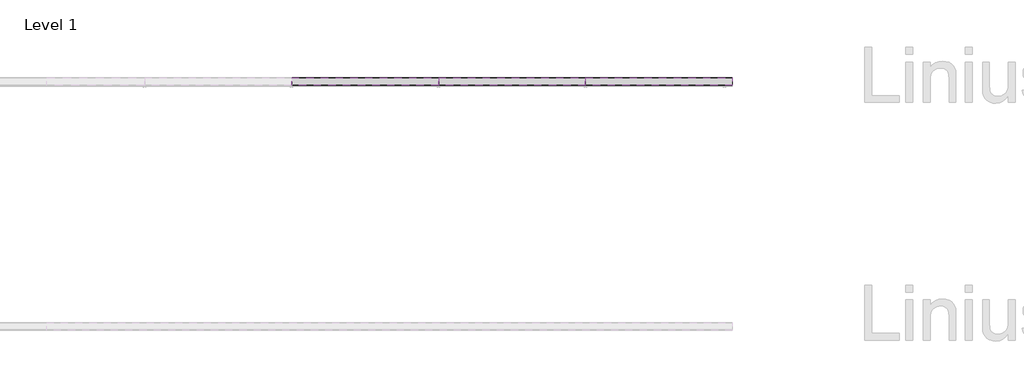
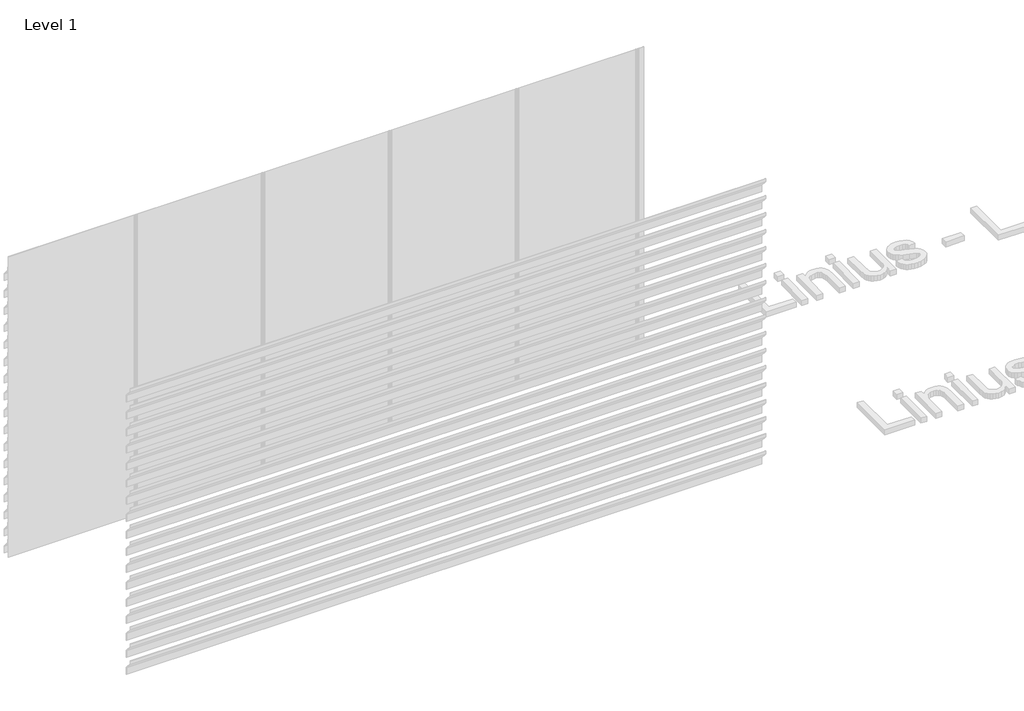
# One storey, part 116 of 121: 51 proxies.
"""IFC4 building model written with IfcOpenShell, lengths in millimetres."""

from ifc_helpers import new_model, si_unit, frame, origin, place, context, project, spatial, polyline, outline, extrude, element, save

model = new_model("IFC4")

# Units and contexts
model_context = context("Model", 3, world=origin())
ifc_project = project(units=[si_unit("LENGTHUNIT", "METRE", prefix="MILLI")], contexts=[model_context])

# Site, building, storey
site = spatial("IfcSite", under=ifc_project)
building = spatial("IfcBuilding", under=site)
storey = spatial("IfcBuildingStorey", under=building, Name="Level 1", Elevation=0.0)

# Proxies
placement = place(None, origin())
element("IfcBuildingElementProxy", 1, Name="Wall Sweeps", at=placement, inside=storey, context=model_context, shape_type="SweptSolid", body=[
    extrude(outline(polyline([(74052.5540136, 2789.0), (74052.5540136, 2720.0), (74050.5540136, 2720.9326153), (74050.5540136, 2788.2698755), (73990.0540136, 2860.0893276), (73990.0540136, 2890.0), (73992.0540136, 2890.0), (73992.0540136, 2860.8194521), (74052.5540136, 2789.0)])), frame((94266.6208095, 0.0, 0.0), z_axis=(1.0, 0.0, 0.0), x_axis=(0.0, 1.0, 0.0)), (0.0, 0.0, 1.0), 1200.0000002),
])
element("IfcBuildingElementProxy", 2, Name="Wall Sweeps", at=placement, inside=storey, context=model_context, shape_type="SweptSolid", body=[
    extrude(outline(polyline([(74052.5540136, 2619.0), (74052.5540136, 2550.0), (74050.5540136, 2550.9326153), (74050.5540136, 2618.2698755), (73990.0540136, 2690.0893276), (73990.0540136, 2720.0), (73992.0540136, 2720.0), (73992.0540136, 2690.8194521), (74052.5540136, 2619.0)])), frame((94266.6208095, 0.0, 0.0), z_axis=(1.0, 0.0, 0.0), x_axis=(0.0, 1.0, 0.0)), (0.0, 0.0, 1.0), 1200.0000002),
])
element("IfcBuildingElementProxy", 3, Name="Wall Sweeps", at=placement, inside=storey, context=model_context, shape_type="SweptSolid", body=[
    extrude(outline(polyline([(74052.5540136, 2449.0), (74052.5540136, 2380.0), (74050.5540136, 2380.9326153), (74050.5540136, 2448.2698755), (73990.0540136, 2520.0893276), (73990.0540136, 2550.0), (73992.0540136, 2550.0), (73992.0540136, 2520.8194521), (74052.5540136, 2449.0)])), frame((94266.6208095, 0.0, 0.0), z_axis=(1.0, 0.0, 0.0), x_axis=(0.0, 1.0, 0.0)), (0.0, 0.0, 1.0), 1200.0000002),
])
element("IfcBuildingElementProxy", 4, Name="Wall Sweeps", at=placement, inside=storey, context=model_context, shape_type="SweptSolid", body=[
    extrude(outline(polyline([(74052.5540136, 2279.0), (74052.5540136, 2210.0), (74050.5540136, 2210.9326153), (74050.5540136, 2278.2698755), (73990.0540136, 2350.0893276), (73990.0540136, 2380.0), (73992.0540136, 2380.0), (73992.0540136, 2350.8194521), (74052.5540136, 2279.0)])), frame((94266.6208095, 0.0, 0.0), z_axis=(1.0, 0.0, 0.0), x_axis=(0.0, 1.0, 0.0)), (0.0, 0.0, 1.0), 1200.0000002),
])
element("IfcBuildingElementProxy", 5, Name="Wall Sweeps", at=placement, inside=storey, context=model_context, shape_type="SweptSolid", body=[
    extrude(outline(polyline([(74052.5540136, 2109.0), (74052.5540136, 2040.0), (74050.5540136, 2040.9326153), (74050.5540136, 2108.2698755), (73990.0540136, 2180.0893276), (73990.0540136, 2210.0), (73992.0540136, 2210.0), (73992.0540136, 2180.8194521), (74052.5540136, 2109.0)])), frame((94266.6208095, 0.0, 0.0), z_axis=(1.0, 0.0, 0.0), x_axis=(0.0, 1.0, 0.0)), (0.0, 0.0, 1.0), 1200.0000002),
])
element("IfcBuildingElementProxy", 6, Name="Wall Sweeps", at=placement, inside=storey, context=model_context, shape_type="SweptSolid", body=[
    extrude(outline(polyline([(74052.5540136, 1939.0), (74052.5540136, 1870.0), (74050.5540136, 1870.9326153), (74050.5540136, 1938.2698755), (73990.0540136, 2010.0893276), (73990.0540136, 2040.0), (73992.0540136, 2040.0), (73992.0540136, 2010.8194521), (74052.5540136, 1939.0)])), frame((94266.6208095, 0.0, 0.0), z_axis=(1.0, 0.0, 0.0), x_axis=(0.0, 1.0, 0.0)), (0.0, 0.0, 1.0), 1200.0000002),
])
element("IfcBuildingElementProxy", 7, Name="Wall Sweeps", at=placement, inside=storey, context=model_context, shape_type="SweptSolid", body=[
    extrude(outline(polyline([(74052.5540136, 1769.0), (74052.5540136, 1700.0), (74050.5540136, 1700.9326153), (74050.5540136, 1768.2698755), (73990.0540136, 1840.0893276), (73990.0540136, 1870.0), (73992.0540136, 1870.0), (73992.0540136, 1840.8194521), (74052.5540136, 1769.0)])), frame((94266.6208095, 0.0, 0.0), z_axis=(1.0, 0.0, 0.0), x_axis=(0.0, 1.0, 0.0)), (0.0, 0.0, 1.0), 1200.0000002),
])
element("IfcBuildingElementProxy", 8, Name="Wall Sweeps", at=placement, inside=storey, context=model_context, shape_type="SweptSolid", body=[
    extrude(outline(polyline([(74052.5540136, 1599.0), (74052.5540136, 1530.0), (74050.5540136, 1530.9326153), (74050.5540136, 1598.2698755), (73990.0540136, 1670.0893276), (73990.0540136, 1700.0), (73992.0540136, 1700.0), (73992.0540136, 1670.8194521), (74052.5540136, 1599.0)])), frame((94266.6208095, 0.0, 0.0), z_axis=(1.0, 0.0, 0.0), x_axis=(0.0, 1.0, 0.0)), (0.0, 0.0, 1.0), 1200.0000002),
])
element("IfcBuildingElementProxy", 9, Name="Wall Sweeps", at=placement, inside=storey, context=model_context, shape_type="SweptSolid", body=[
    extrude(outline(polyline([(74052.5540136, 1429.0), (74052.5540136, 1360.0), (74050.5540136, 1360.9326153), (74050.5540136, 1428.2698755), (73990.0540136, 1500.0893276), (73990.0540136, 1530.0), (73992.0540136, 1530.0), (73992.0540136, 1500.8194521), (74052.5540136, 1429.0)])), frame((94266.6208095, 0.0, 0.0), z_axis=(1.0, 0.0, 0.0), x_axis=(0.0, 1.0, 0.0)), (0.0, 0.0, 1.0), 1200.0000002),
])
element("IfcBuildingElementProxy", 10, Name="Wall Sweeps", at=placement, inside=storey, context=model_context, shape_type="SweptSolid", body=[
    extrude(outline(polyline([(74052.5540136, 1259.0), (74052.5540136, 1190.0), (74050.5540136, 1190.9326153), (74050.5540136, 1258.2698755), (73990.0540136, 1330.0893276), (73990.0540136, 1360.0), (73992.0540136, 1360.0), (73992.0540136, 1330.8194521), (74052.5540136, 1259.0)])), frame((94266.6208095, 0.0, 0.0), z_axis=(1.0, 0.0, 0.0), x_axis=(0.0, 1.0, 0.0)), (0.0, 0.0, 1.0), 1200.0000002),
])
element("IfcBuildingElementProxy", 11, Name="Wall Sweeps", at=placement, inside=storey, context=model_context, shape_type="SweptSolid", body=[
    extrude(outline(polyline([(74052.5540136, 1089.0), (74052.5540136, 1020.0), (74050.5540136, 1020.9326153), (74050.5540136, 1088.2698755), (73990.0540136, 1160.0893276), (73990.0540136, 1190.0), (73992.0540136, 1190.0), (73992.0540136, 1160.8194521), (74052.5540136, 1089.0)])), frame((94266.6208095, 0.0, 0.0), z_axis=(1.0, 0.0, 0.0), x_axis=(0.0, 1.0, 0.0)), (0.0, 0.0, 1.0), 1200.0000002),
])
element("IfcBuildingElementProxy", 12, Name="Wall Sweeps", at=placement, inside=storey, context=model_context, shape_type="SweptSolid", body=[
    extrude(outline(polyline([(74052.5540136, 919.0), (74052.5540136, 850.0), (74050.5540136, 850.9326153), (74050.5540136, 918.2698755), (73990.0540136, 990.0893276), (73990.0540136, 1020.0), (73992.0540136, 1020.0), (73992.0540136, 990.8194521), (74052.5540136, 919.0)])), frame((94266.6208095, 0.0, 0.0), z_axis=(1.0, 0.0, 0.0), x_axis=(0.0, 1.0, 0.0)), (0.0, 0.0, 1.0), 1200.0000002),
])
element("IfcBuildingElementProxy", 13, Name="Wall Sweeps", at=placement, inside=storey, context=model_context, shape_type="SweptSolid", body=[
    extrude(outline(polyline([(74052.5540136, 749.0), (74052.5540136, 680.0), (74050.5540136, 680.9326153), (74050.5540136, 748.2698755), (73990.0540136, 820.0893276), (73990.0540136, 850.0), (73992.0540136, 850.0), (73992.0540136, 820.8194521), (74052.5540136, 749.0)])), frame((94266.6208095, 0.0, 0.0), z_axis=(1.0, 0.0, 0.0), x_axis=(0.0, 1.0, 0.0)), (0.0, 0.0, 1.0), 1200.0000002),
])
element("IfcBuildingElementProxy", 14, Name="Wall Sweeps", at=placement, inside=storey, context=model_context, shape_type="SweptSolid", body=[
    extrude(outline(polyline([(74052.5540136, 579.0), (74052.5540136, 510.0), (74050.5540136, 510.9326153), (74050.5540136, 578.2698755), (73990.0540136, 650.0893276), (73990.0540136, 680.0), (73992.0540136, 680.0), (73992.0540136, 650.8194521), (74052.5540136, 579.0)])), frame((94266.6208095, 0.0, 0.0), z_axis=(1.0, 0.0, 0.0), x_axis=(0.0, 1.0, 0.0)), (0.0, 0.0, 1.0), 1200.0000002),
])
element("IfcBuildingElementProxy", 15, Name="Wall Sweeps", at=placement, inside=storey, context=model_context, shape_type="SweptSolid", body=[
    extrude(outline(polyline([(74052.5540136, 409.0), (74052.5540136, 340.0), (74050.5540136, 340.9326153), (74050.5540136, 408.2698755), (73990.0540136, 480.0893276), (73990.0540136, 510.0), (73992.0540136, 510.0), (73992.0540136, 480.8194521), (74052.5540136, 409.0)])), frame((94266.6208095, 0.0, 0.0), z_axis=(1.0, 0.0, 0.0), x_axis=(0.0, 1.0, 0.0)), (0.0, 0.0, 1.0), 1200.0000002),
])
element("IfcBuildingElementProxy", 16, Name="Wall Sweeps", at=placement, inside=storey, context=model_context, shape_type="SweptSolid", body=[
    extrude(outline(polyline([(74052.5540136, 239.0), (74052.5540136, 170.0), (74050.5540136, 170.9326153), (74050.5540136, 238.2698755), (73990.0540136, 310.0893276), (73990.0540136, 340.0), (73992.0540136, 340.0), (73992.0540136, 310.8194521), (74052.5540136, 239.0)])), frame((94266.6208095, 0.0, 0.0), z_axis=(1.0, 0.0, 0.0), x_axis=(0.0, 1.0, 0.0)), (0.0, 0.0, 1.0), 1200.0000002),
])
element("IfcBuildingElementProxy", 17, Name="Wall Sweeps", at=placement, inside=storey, context=model_context, shape_type="SweptSolid", body=[
    extrude(outline(polyline([(74052.5540136, 69.0), (74052.5540136, 0.0), (74050.5540136, 0.9326153), (74050.5540136, 68.2698755), (73990.0540136, 140.0893276), (73990.0540136, 170.0), (73992.0540136, 170.0), (73992.0540136, 140.8194521), (74052.5540136, 69.0)])), frame((94266.6208095, 0.0, 0.0), z_axis=(1.0, 0.0, 0.0), x_axis=(0.0, 1.0, 0.0)), (0.0, 0.0, 1.0), 1200.0000002),
])
element("IfcBuildingElementProxy", 18, Name="Wall Sweeps", at=placement, inside=storey, context=model_context, shape_type="SweptSolid", body=[
    extrude(outline(polyline([(74052.5540136, 2789.0), (74052.5540136, 2720.0), (74050.5540136, 2720.9326153), (74050.5540136, 2788.2698755), (73990.0540136, 2860.0893276), (73990.0540136, 2890.0), (73992.0540136, 2890.0), (73992.0540136, 2860.8194521), (74052.5540136, 2789.0)])), frame((91866.6208097, 0.0, 0.0), z_axis=(1.0, 0.0, 0.0), x_axis=(0.0, 1.0, 0.0)), (0.0, 0.0, 1.0), 1199.9999999),
])
element("IfcBuildingElementProxy", 19, Name="Wall Sweeps", at=placement, inside=storey, context=model_context, shape_type="SweptSolid", body=[
    extrude(outline(polyline([(74052.5540136, 2619.0), (74052.5540136, 2550.0), (74050.5540136, 2550.9326153), (74050.5540136, 2618.2698755), (73990.0540136, 2690.0893276), (73990.0540136, 2720.0), (73992.0540136, 2720.0), (73992.0540136, 2690.8194521), (74052.5540136, 2619.0)])), frame((91866.6208097, 0.0, 0.0), z_axis=(1.0, 0.0, 0.0), x_axis=(0.0, 1.0, 0.0)), (0.0, 0.0, 1.0), 1199.9999999),
])
element("IfcBuildingElementProxy", 20, Name="Wall Sweeps", at=placement, inside=storey, context=model_context, shape_type="SweptSolid", body=[
    extrude(outline(polyline([(74052.5540136, 2449.0), (74052.5540136, 2380.0), (74050.5540136, 2380.9326153), (74050.5540136, 2448.2698755), (73990.0540136, 2520.0893276), (73990.0540136, 2550.0), (73992.0540136, 2550.0), (73992.0540136, 2520.8194521), (74052.5540136, 2449.0)])), frame((91866.6208097, 0.0, 0.0), z_axis=(1.0, 0.0, 0.0), x_axis=(0.0, 1.0, 0.0)), (0.0, 0.0, 1.0), 1199.9999999),
])
element("IfcBuildingElementProxy", 21, Name="Wall Sweeps", at=placement, inside=storey, context=model_context, shape_type="SweptSolid", body=[
    extrude(outline(polyline([(74052.5540136, 2279.0), (74052.5540136, 2210.0), (74050.5540136, 2210.9326153), (74050.5540136, 2278.2698755), (73990.0540136, 2350.0893276), (73990.0540136, 2380.0), (73992.0540136, 2380.0), (73992.0540136, 2350.8194521), (74052.5540136, 2279.0)])), frame((91866.6208097, 0.0, 0.0), z_axis=(1.0, 0.0, 0.0), x_axis=(0.0, 1.0, 0.0)), (0.0, 0.0, 1.0), 1199.9999999),
])
element("IfcBuildingElementProxy", 22, Name="Wall Sweeps", at=placement, inside=storey, context=model_context, shape_type="SweptSolid", body=[
    extrude(outline(polyline([(74052.5540136, 2109.0), (74052.5540136, 2040.0), (74050.5540136, 2040.9326153), (74050.5540136, 2108.2698755), (73990.0540136, 2180.0893276), (73990.0540136, 2210.0), (73992.0540136, 2210.0), (73992.0540136, 2180.8194521), (74052.5540136, 2109.0)])), frame((91866.6208097, 0.0, 0.0), z_axis=(1.0, 0.0, 0.0), x_axis=(0.0, 1.0, 0.0)), (0.0, 0.0, 1.0), 1199.9999999),
])
element("IfcBuildingElementProxy", 23, Name="Wall Sweeps", at=placement, inside=storey, context=model_context, shape_type="SweptSolid", body=[
    extrude(outline(polyline([(74052.5540136, 1939.0), (74052.5540136, 1870.0), (74050.5540136, 1870.9326153), (74050.5540136, 1938.2698755), (73990.0540136, 2010.0893276), (73990.0540136, 2040.0), (73992.0540136, 2040.0), (73992.0540136, 2010.8194521), (74052.5540136, 1939.0)])), frame((91866.6208097, 0.0, 0.0), z_axis=(1.0, 0.0, 0.0), x_axis=(0.0, 1.0, 0.0)), (0.0, 0.0, 1.0), 1199.9999999),
])
element("IfcBuildingElementProxy", 24, Name="Wall Sweeps", at=placement, inside=storey, context=model_context, shape_type="SweptSolid", body=[
    extrude(outline(polyline([(74052.5540136, 1769.0), (74052.5540136, 1700.0), (74050.5540136, 1700.9326153), (74050.5540136, 1768.2698755), (73990.0540136, 1840.0893276), (73990.0540136, 1870.0), (73992.0540136, 1870.0), (73992.0540136, 1840.8194521), (74052.5540136, 1769.0)])), frame((91866.6208097, 0.0, 0.0), z_axis=(1.0, 0.0, 0.0), x_axis=(0.0, 1.0, 0.0)), (0.0, 0.0, 1.0), 1199.9999999),
])
element("IfcBuildingElementProxy", 25, Name="Wall Sweeps", at=placement, inside=storey, context=model_context, shape_type="SweptSolid", body=[
    extrude(outline(polyline([(74052.5540136, 1599.0), (74052.5540136, 1530.0), (74050.5540136, 1530.9326153), (74050.5540136, 1598.2698755), (73990.0540136, 1670.0893276), (73990.0540136, 1700.0), (73992.0540136, 1700.0), (73992.0540136, 1670.8194521), (74052.5540136, 1599.0)])), frame((91866.6208097, 0.0, 0.0), z_axis=(1.0, 0.0, 0.0), x_axis=(0.0, 1.0, 0.0)), (0.0, 0.0, 1.0), 1199.9999999),
])
element("IfcBuildingElementProxy", 26, Name="Wall Sweeps", at=placement, inside=storey, context=model_context, shape_type="SweptSolid", body=[
    extrude(outline(polyline([(74052.5540136, 1429.0), (74052.5540136, 1360.0), (74050.5540136, 1360.9326153), (74050.5540136, 1428.2698755), (73990.0540136, 1500.0893276), (73990.0540136, 1530.0), (73992.0540136, 1530.0), (73992.0540136, 1500.8194521), (74052.5540136, 1429.0)])), frame((91866.6208097, 0.0, 0.0), z_axis=(1.0, 0.0, 0.0), x_axis=(0.0, 1.0, 0.0)), (0.0, 0.0, 1.0), 1199.9999999),
])
element("IfcBuildingElementProxy", 27, Name="Wall Sweeps", at=placement, inside=storey, context=model_context, shape_type="SweptSolid", body=[
    extrude(outline(polyline([(74052.5540136, 1259.0), (74052.5540136, 1190.0), (74050.5540136, 1190.9326153), (74050.5540136, 1258.2698755), (73990.0540136, 1330.0893276), (73990.0540136, 1360.0), (73992.0540136, 1360.0), (73992.0540136, 1330.8194521), (74052.5540136, 1259.0)])), frame((91866.6208097, 0.0, 0.0), z_axis=(1.0, 0.0, 0.0), x_axis=(0.0, 1.0, 0.0)), (0.0, 0.0, 1.0), 1199.9999999),
])
element("IfcBuildingElementProxy", 28, Name="Wall Sweeps", at=placement, inside=storey, context=model_context, shape_type="SweptSolid", body=[
    extrude(outline(polyline([(74052.5540136, 1089.0), (74052.5540136, 1020.0), (74050.5540136, 1020.9326153), (74050.5540136, 1088.2698755), (73990.0540136, 1160.0893276), (73990.0540136, 1190.0), (73992.0540136, 1190.0), (73992.0540136, 1160.8194521), (74052.5540136, 1089.0)])), frame((91866.6208097, 0.0, 0.0), z_axis=(1.0, 0.0, 0.0), x_axis=(0.0, 1.0, 0.0)), (0.0, 0.0, 1.0), 1199.9999999),
])
element("IfcBuildingElementProxy", 29, Name="Wall Sweeps", at=placement, inside=storey, context=model_context, shape_type="SweptSolid", body=[
    extrude(outline(polyline([(74052.5540136, 919.0), (74052.5540136, 850.0), (74050.5540136, 850.9326153), (74050.5540136, 918.2698755), (73990.0540136, 990.0893276), (73990.0540136, 1020.0), (73992.0540136, 1020.0), (73992.0540136, 990.8194521), (74052.5540136, 919.0)])), frame((91866.6208097, 0.0, 0.0), z_axis=(1.0, 0.0, 0.0), x_axis=(0.0, 1.0, 0.0)), (0.0, 0.0, 1.0), 1199.9999999),
])
element("IfcBuildingElementProxy", 30, Name="Wall Sweeps", at=placement, inside=storey, context=model_context, shape_type="SweptSolid", body=[
    extrude(outline(polyline([(74052.5540136, 749.0), (74052.5540136, 680.0), (74050.5540136, 680.9326153), (74050.5540136, 748.2698755), (73990.0540136, 820.0893276), (73990.0540136, 850.0), (73992.0540136, 850.0), (73992.0540136, 820.8194521), (74052.5540136, 749.0)])), frame((91866.6208097, 0.0, 0.0), z_axis=(1.0, 0.0, 0.0), x_axis=(0.0, 1.0, 0.0)), (0.0, 0.0, 1.0), 1199.9999999),
])
element("IfcBuildingElementProxy", 31, Name="Wall Sweeps", at=placement, inside=storey, context=model_context, shape_type="SweptSolid", body=[
    extrude(outline(polyline([(74052.5540136, 579.0), (74052.5540136, 510.0), (74050.5540136, 510.9326153), (74050.5540136, 578.2698755), (73990.0540136, 650.0893276), (73990.0540136, 680.0), (73992.0540136, 680.0), (73992.0540136, 650.8194521), (74052.5540136, 579.0)])), frame((91866.6208097, 0.0, 0.0), z_axis=(1.0, 0.0, 0.0), x_axis=(0.0, 1.0, 0.0)), (0.0, 0.0, 1.0), 1199.9999999),
])
element("IfcBuildingElementProxy", 32, Name="Wall Sweeps", at=placement, inside=storey, context=model_context, shape_type="SweptSolid", body=[
    extrude(outline(polyline([(74052.5540136, 409.0), (74052.5540136, 340.0), (74050.5540136, 340.9326153), (74050.5540136, 408.2698755), (73990.0540136, 480.0893276), (73990.0540136, 510.0), (73992.0540136, 510.0), (73992.0540136, 480.8194521), (74052.5540136, 409.0)])), frame((91866.6208097, 0.0, 0.0), z_axis=(1.0, 0.0, 0.0), x_axis=(0.0, 1.0, 0.0)), (0.0, 0.0, 1.0), 1199.9999999),
])
element("IfcBuildingElementProxy", 33, Name="Wall Sweeps", at=placement, inside=storey, context=model_context, shape_type="SweptSolid", body=[
    extrude(outline(polyline([(74052.5540136, 239.0), (74052.5540136, 170.0), (74050.5540136, 170.9326153), (74050.5540136, 238.2698755), (73990.0540136, 310.0893276), (73990.0540136, 340.0), (73992.0540136, 340.0), (73992.0540136, 310.8194521), (74052.5540136, 239.0)])), frame((91866.6208097, 0.0, 0.0), z_axis=(1.0, 0.0, 0.0), x_axis=(0.0, 1.0, 0.0)), (0.0, 0.0, 1.0), 1199.9999999),
])
element("IfcBuildingElementProxy", 34, Name="Wall Sweeps", at=placement, inside=storey, context=model_context, shape_type="SweptSolid", body=[
    extrude(outline(polyline([(74052.5540136, 69.0), (74052.5540136, 0.0), (74050.5540136, 0.9326153), (74050.5540136, 68.2698755), (73990.0540136, 140.0893276), (73990.0540136, 170.0), (73992.0540136, 170.0), (73992.0540136, 140.8194521), (74052.5540136, 69.0)])), frame((91866.6208097, 0.0, 0.0), z_axis=(1.0, 0.0, 0.0), x_axis=(0.0, 1.0, 0.0)), (0.0, 0.0, 1.0), 1199.9999999),
])
element("IfcBuildingElementProxy", 35, Name="Wall Sweeps", at=placement, inside=storey, context=model_context, shape_type="SweptSolid", body=[
    extrude(outline(polyline([(74052.5540136, 2789.0), (74052.5540136, 2720.0), (74050.5540136, 2720.9326153), (74050.5540136, 2788.2698755), (73990.0540136, 2860.0893276), (73990.0540136, 2890.0), (73992.0540136, 2890.0), (73992.0540136, 2860.8194521), (74052.5540136, 2789.0)])), frame((93066.6208096, 0.0, 0.0), z_axis=(1.0, 0.0, 0.0), x_axis=(0.0, 1.0, 0.0)), (0.0, 0.0, 1.0), 1199.9999999),
])
element("IfcBuildingElementProxy", 36, Name="Wall Sweeps", at=placement, inside=storey, context=model_context, shape_type="SweptSolid", body=[
    extrude(outline(polyline([(74052.5540136, 2619.0), (74052.5540136, 2550.0), (74050.5540136, 2550.9326153), (74050.5540136, 2618.2698755), (73990.0540136, 2690.0893276), (73990.0540136, 2720.0), (73992.0540136, 2720.0), (73992.0540136, 2690.8194521), (74052.5540136, 2619.0)])), frame((93066.6208096, 0.0, 0.0), z_axis=(1.0, 0.0, 0.0), x_axis=(0.0, 1.0, 0.0)), (0.0, 0.0, 1.0), 1199.9999999),
])
element("IfcBuildingElementProxy", 37, Name="Wall Sweeps", at=placement, inside=storey, context=model_context, shape_type="SweptSolid", body=[
    extrude(outline(polyline([(74052.5540136, 2449.0), (74052.5540136, 2380.0), (74050.5540136, 2380.9326153), (74050.5540136, 2448.2698755), (73990.0540136, 2520.0893276), (73990.0540136, 2550.0), (73992.0540136, 2550.0), (73992.0540136, 2520.8194521), (74052.5540136, 2449.0)])), frame((93066.6208096, 0.0, 0.0), z_axis=(1.0, 0.0, 0.0), x_axis=(0.0, 1.0, 0.0)), (0.0, 0.0, 1.0), 1199.9999999),
])
element("IfcBuildingElementProxy", 38, Name="Wall Sweeps", at=placement, inside=storey, context=model_context, shape_type="SweptSolid", body=[
    extrude(outline(polyline([(74052.5540136, 2279.0), (74052.5540136, 2210.0), (74050.5540136, 2210.9326153), (74050.5540136, 2278.2698755), (73990.0540136, 2350.0893276), (73990.0540136, 2380.0), (73992.0540136, 2380.0), (73992.0540136, 2350.8194521), (74052.5540136, 2279.0)])), frame((93066.6208096, 0.0, 0.0), z_axis=(1.0, 0.0, 0.0), x_axis=(0.0, 1.0, 0.0)), (0.0, 0.0, 1.0), 1199.9999999),
])
element("IfcBuildingElementProxy", 39, Name="Wall Sweeps", at=placement, inside=storey, context=model_context, shape_type="SweptSolid", body=[
    extrude(outline(polyline([(74052.5540136, 2109.0), (74052.5540136, 2040.0), (74050.5540136, 2040.9326153), (74050.5540136, 2108.2698755), (73990.0540136, 2180.0893276), (73990.0540136, 2210.0), (73992.0540136, 2210.0), (73992.0540136, 2180.8194521), (74052.5540136, 2109.0)])), frame((93066.6208096, 0.0, 0.0), z_axis=(1.0, 0.0, 0.0), x_axis=(0.0, 1.0, 0.0)), (0.0, 0.0, 1.0), 1199.9999999),
])
element("IfcBuildingElementProxy", 40, Name="Wall Sweeps", at=placement, inside=storey, context=model_context, shape_type="SweptSolid", body=[
    extrude(outline(polyline([(74052.5540136, 1939.0), (74052.5540136, 1870.0), (74050.5540136, 1870.9326153), (74050.5540136, 1938.2698755), (73990.0540136, 2010.0893276), (73990.0540136, 2040.0), (73992.0540136, 2040.0), (73992.0540136, 2010.8194521), (74052.5540136, 1939.0)])), frame((93066.6208096, 0.0, 0.0), z_axis=(1.0, 0.0, 0.0), x_axis=(0.0, 1.0, 0.0)), (0.0, 0.0, 1.0), 1199.9999999),
])
element("IfcBuildingElementProxy", 41, Name="Wall Sweeps", at=placement, inside=storey, context=model_context, shape_type="SweptSolid", body=[
    extrude(outline(polyline([(74052.5540136, 1769.0), (74052.5540136, 1700.0), (74050.5540136, 1700.9326153), (74050.5540136, 1768.2698755), (73990.0540136, 1840.0893276), (73990.0540136, 1870.0), (73992.0540136, 1870.0), (73992.0540136, 1840.8194521), (74052.5540136, 1769.0)])), frame((93066.6208096, 0.0, 0.0), z_axis=(1.0, 0.0, 0.0), x_axis=(0.0, 1.0, 0.0)), (0.0, 0.0, 1.0), 1199.9999999),
])
element("IfcBuildingElementProxy", 42, Name="Wall Sweeps", at=placement, inside=storey, context=model_context, shape_type="SweptSolid", body=[
    extrude(outline(polyline([(74052.5540136, 1599.0), (74052.5540136, 1530.0), (74050.5540136, 1530.9326153), (74050.5540136, 1598.2698755), (73990.0540136, 1670.0893276), (73990.0540136, 1700.0), (73992.0540136, 1700.0), (73992.0540136, 1670.8194521), (74052.5540136, 1599.0)])), frame((93066.6208096, 0.0, 0.0), z_axis=(1.0, 0.0, 0.0), x_axis=(0.0, 1.0, 0.0)), (0.0, 0.0, 1.0), 1199.9999999),
])
element("IfcBuildingElementProxy", 43, Name="Wall Sweeps", at=placement, inside=storey, context=model_context, shape_type="SweptSolid", body=[
    extrude(outline(polyline([(74052.5540136, 1429.0), (74052.5540136, 1360.0), (74050.5540136, 1360.9326153), (74050.5540136, 1428.2698755), (73990.0540136, 1500.0893276), (73990.0540136, 1530.0), (73992.0540136, 1530.0), (73992.0540136, 1500.8194521), (74052.5540136, 1429.0)])), frame((93066.6208096, 0.0, 0.0), z_axis=(1.0, 0.0, 0.0), x_axis=(0.0, 1.0, 0.0)), (0.0, 0.0, 1.0), 1199.9999999),
])
element("IfcBuildingElementProxy", 44, Name="Wall Sweeps", at=placement, inside=storey, context=model_context, shape_type="SweptSolid", body=[
    extrude(outline(polyline([(74052.5540136, 1259.0), (74052.5540136, 1190.0), (74050.5540136, 1190.9326153), (74050.5540136, 1258.2698755), (73990.0540136, 1330.0893276), (73990.0540136, 1360.0), (73992.0540136, 1360.0), (73992.0540136, 1330.8194521), (74052.5540136, 1259.0)])), frame((93066.6208096, 0.0, 0.0), z_axis=(1.0, 0.0, 0.0), x_axis=(0.0, 1.0, 0.0)), (0.0, 0.0, 1.0), 1199.9999999),
])
element("IfcBuildingElementProxy", 45, Name="Wall Sweeps", at=placement, inside=storey, context=model_context, shape_type="SweptSolid", body=[
    extrude(outline(polyline([(74052.5540136, 1089.0), (74052.5540136, 1020.0), (74050.5540136, 1020.9326153), (74050.5540136, 1088.2698755), (73990.0540136, 1160.0893276), (73990.0540136, 1190.0), (73992.0540136, 1190.0), (73992.0540136, 1160.8194521), (74052.5540136, 1089.0)])), frame((93066.6208096, 0.0, 0.0), z_axis=(1.0, 0.0, 0.0), x_axis=(0.0, 1.0, 0.0)), (0.0, 0.0, 1.0), 1199.9999999),
])
element("IfcBuildingElementProxy", 46, Name="Wall Sweeps", at=placement, inside=storey, context=model_context, shape_type="SweptSolid", body=[
    extrude(outline(polyline([(74052.5540136, 919.0), (74052.5540136, 850.0), (74050.5540136, 850.9326153), (74050.5540136, 918.2698755), (73990.0540136, 990.0893276), (73990.0540136, 1020.0), (73992.0540136, 1020.0), (73992.0540136, 990.8194521), (74052.5540136, 919.0)])), frame((93066.6208096, 0.0, 0.0), z_axis=(1.0, 0.0, 0.0), x_axis=(0.0, 1.0, 0.0)), (0.0, 0.0, 1.0), 1199.9999999),
])
element("IfcBuildingElementProxy", 47, Name="Wall Sweeps", at=placement, inside=storey, context=model_context, shape_type="SweptSolid", body=[
    extrude(outline(polyline([(74052.5540136, 749.0), (74052.5540136, 680.0), (74050.5540136, 680.9326153), (74050.5540136, 748.2698755), (73990.0540136, 820.0893276), (73990.0540136, 850.0), (73992.0540136, 850.0), (73992.0540136, 820.8194521), (74052.5540136, 749.0)])), frame((93066.6208096, 0.0, 0.0), z_axis=(1.0, 0.0, 0.0), x_axis=(0.0, 1.0, 0.0)), (0.0, 0.0, 1.0), 1199.9999999),
])
element("IfcBuildingElementProxy", 48, Name="Wall Sweeps", at=placement, inside=storey, context=model_context, shape_type="SweptSolid", body=[
    extrude(outline(polyline([(74052.5540136, 579.0), (74052.5540136, 510.0), (74050.5540136, 510.9326153), (74050.5540136, 578.2698755), (73990.0540136, 650.0893276), (73990.0540136, 680.0), (73992.0540136, 680.0), (73992.0540136, 650.8194521), (74052.5540136, 579.0)])), frame((93066.6208096, 0.0, 0.0), z_axis=(1.0, 0.0, 0.0), x_axis=(0.0, 1.0, 0.0)), (0.0, 0.0, 1.0), 1199.9999999),
])
element("IfcBuildingElementProxy", 49, Name="Wall Sweeps", at=placement, inside=storey, context=model_context, shape_type="SweptSolid", body=[
    extrude(outline(polyline([(74052.5540136, 409.0), (74052.5540136, 340.0), (74050.5540136, 340.9326153), (74050.5540136, 408.2698755), (73990.0540136, 480.0893276), (73990.0540136, 510.0), (73992.0540136, 510.0), (73992.0540136, 480.8194521), (74052.5540136, 409.0)])), frame((93066.6208096, 0.0, 0.0), z_axis=(1.0, 0.0, 0.0), x_axis=(0.0, 1.0, 0.0)), (0.0, 0.0, 1.0), 1199.9999999),
])
element("IfcBuildingElementProxy", 50, Name="Wall Sweeps", at=placement, inside=storey, context=model_context, shape_type="SweptSolid", body=[
    extrude(outline(polyline([(74052.5540136, 239.0), (74052.5540136, 170.0), (74050.5540136, 170.9326153), (74050.5540136, 238.2698755), (73990.0540136, 310.0893276), (73990.0540136, 340.0), (73992.0540136, 340.0), (73992.0540136, 310.8194521), (74052.5540136, 239.0)])), frame((93066.6208096, 0.0, 0.0), z_axis=(1.0, 0.0, 0.0), x_axis=(0.0, 1.0, 0.0)), (0.0, 0.0, 1.0), 1199.9999999),
])
element("IfcBuildingElementProxy", 51, Name="Wall Sweeps", at=placement, inside=storey, context=model_context, shape_type="SweptSolid", body=[
    extrude(outline(polyline([(74052.5540136, 69.0), (74052.5540136, 0.0), (74050.5540136, 0.9326153), (74050.5540136, 68.2698755), (73990.0540136, 140.0893276), (73990.0540136, 170.0), (73992.0540136, 170.0), (73992.0540136, 140.8194521), (74052.5540136, 69.0)])), frame((93066.6208096, 0.0, 0.0), z_axis=(1.0, 0.0, 0.0), x_axis=(0.0, 1.0, 0.0)), (0.0, 0.0, 1.0), 1199.9999999),
])

save(model, "model.ifc")
